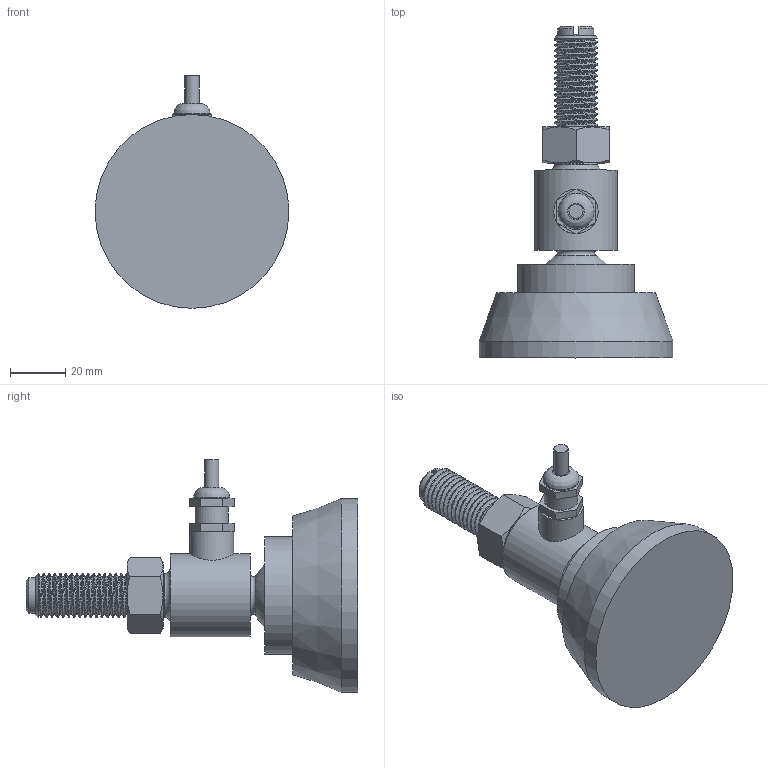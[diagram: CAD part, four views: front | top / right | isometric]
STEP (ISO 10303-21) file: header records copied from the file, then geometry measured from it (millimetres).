
FILE_DESCRIPTION(/* description */ (''),/* implementation_level */ '2;1');
FILE_NAME(/* name */ 'C:/Users/fardi/Dropbox/Anyload/Load Cell Models/3D Drawing/106/106MH-F/106MH-F-2t v2.step',/* time_stamp */ '2020-01-31T12:01:24-08:00',/* author */ (''),/* organization */ (''),/* preprocessor_version */ 'ST-DEVELOPER v18',/* originating_system */ 'Autodesk Translation Framework v8.12.0.6',/* authorisation */ '');
FILE_SCHEMA (('AUTOMOTIVE_DESIGN { 1 0 10303 214 3 1 1 }'));
Length unit declared in the file: millimetre
Products named in the file (3): 106MH-F-2t; Connector; 91828A430
Assembly tree (2 placements, depth 2):
  106MH-F-2t
    Connector
    91828A430
Bounding box: 70 x 119.8 x 84.03 mm (x, y, z)
Volume: 131665.8 mm3; surface area: 25386.9 mm2
Topology: 3 solids, 3 shells, 143 faces, 365 edges, 240 vertices
Faces by surface type: cylinder 73, plane 42, cone 20, bspline 5, torus 2, sphere 1
Full cylindrical faces by diameter (mm): 5.1 x1, 10 x1, 12 x2, 13 x2, 13.402 x5, 13.534 x23, 15.822 x22, 16 x6, 30 x1, 42.3 x1, 70 x1
Entity records: 11102 total; most frequent: CARTESIAN_POINT 7838, ORIENTED_EDGE 728, DIRECTION 568, EDGE_CURVE 364, VERTEX_POINT 240, AXIS2_PLACEMENT_3D 221, EDGE_LOOP 158, FACE_OUTER_BOUND 143
